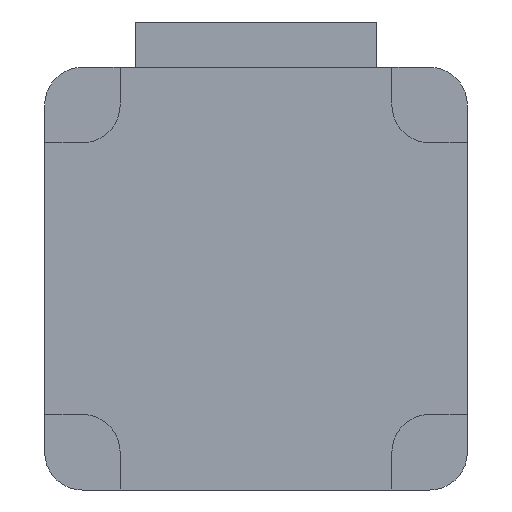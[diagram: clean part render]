
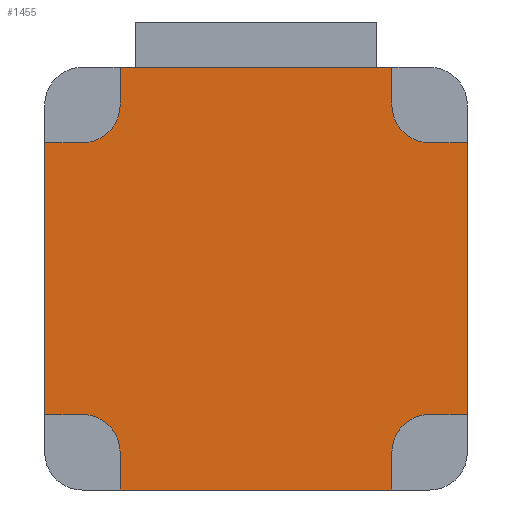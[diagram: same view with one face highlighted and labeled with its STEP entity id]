
A CAD part, front view. The second image highlights one B-rep face of the part: STEP entity #1455.
In plain terms, the highlighted planar face has unit normal (0, -1, 0).
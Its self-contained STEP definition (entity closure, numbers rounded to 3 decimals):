
#12 = VERTEX_POINT ( 'NONE', #916 ) ;
#17 = CARTESIAN_POINT ( 'NONE',  ( 2.5, -49., -5. ) ) ;
#32 = LINE ( 'NONE', #1348, #289 ) ;
#36 = DIRECTION ( 'NONE',  ( 0., 0., -1. ) ) ;
#41 = CARTESIAN_POINT ( 'NONE',  ( 0., -49., 0. ) ) ;
#46 = VERTEX_POINT ( 'NONE', #575 ) ;
#54 = CARTESIAN_POINT ( 'NONE',  ( 23., -49., -25.5 ) ) ;
#55 = AXIS2_PLACEMENT_3D ( 'NONE', #41, #103, #440 ) ;
#58 = CARTESIAN_POINT ( 'NONE',  ( 2.5, -49., -23. ) ) ;
#89 = VERTEX_POINT ( 'NONE', #188 ) ;
#103 = DIRECTION ( 'NONE',  ( 0., -1., 0. ) ) ;
#118 = CARTESIAN_POINT ( 'NONE',  ( 23., -49., -28. ) ) ;
#126 = PLANE ( 'NONE',  #55 ) ;
#156 = VECTOR ( 'NONE', #36, 1000. ) ;
#158 = CARTESIAN_POINT ( 'NONE',  ( 23., -49., -25.5 ) ) ;
#170 = VECTOR ( 'NONE', #449, 1000. ) ;
#188 = CARTESIAN_POINT ( 'NONE',  ( 5., -49., 0. ) ) ;
#204 = ORIENTED_EDGE ( 'NONE', *, *, #964, .F. ) ;
#216 = LINE ( 'NONE', #975, #940 ) ;
#221 = DIRECTION ( 'NONE',  ( 0., 0., 1. ) ) ;
#222 = DIRECTION ( 'NONE',  ( 0., 0., -1. ) ) ;
#223 = ORIENTED_EDGE ( 'NONE', *, *, #918, .F. ) ;
#264 = LINE ( 'NONE', #1504, #1612 ) ;
#272 = CARTESIAN_POINT ( 'NONE',  ( 28., -49., 0. ) ) ;
#273 = LINE ( 'NONE', #272, #570 ) ;
#286 = EDGE_CURVE ( 'NONE', #1029, #1281, #677, .T. ) ;
#289 = VECTOR ( 'NONE', #1108, 1000. ) ;
#302 = VECTOR ( 'NONE', #454, 1000. ) ;
#303 = DIRECTION ( 'NONE',  ( 0., -1., 0. ) ) ;
#308 = CARTESIAN_POINT ( 'NONE',  ( 25.5, -49., -2.5 ) ) ;
#323 = ORIENTED_EDGE ( 'NONE', *, *, #675, .F. ) ;
#335 = VERTEX_POINT ( 'NONE', #792 ) ;
#380 = VERTEX_POINT ( 'NONE', #650 ) ;
#388 = CIRCLE ( 'NONE', #924, 2.5 ) ;
#408 = ORIENTED_EDGE ( 'NONE', *, *, #1039, .F. ) ;
#422 = FACE_OUTER_BOUND ( 'NONE', #1411, .T. ) ;
#428 = LINE ( 'NONE', #523, #170 ) ;
#440 = DIRECTION ( 'NONE',  ( 0., 0., -1. ) ) ;
#444 = DIRECTION ( 'NONE',  ( 0., 0., 1. ) ) ;
#446 = ORIENTED_EDGE ( 'NONE', *, *, #1164, .F. ) ;
#449 = DIRECTION ( 'NONE',  ( 1., 0., 0. ) ) ;
#454 = DIRECTION ( 'NONE',  ( 1., 0., 0. ) ) ;
#460 = CARTESIAN_POINT ( 'NONE',  ( 25.5, -49., -5. ) ) ;
#491 = CIRCLE ( 'NONE', #648, 2.5 ) ;
#512 = VECTOR ( 'NONE', #444, 1000. ) ;
#517 = VECTOR ( 'NONE', #977, 1000. ) ;
#523 = CARTESIAN_POINT ( 'NONE',  ( 0., -49., -5. ) ) ;
#527 = EDGE_CURVE ( 'NONE', #785, #669, #273, .T. ) ;
#536 = ORIENTED_EDGE ( 'NONE', *, *, #286, .F. ) ;
#552 = CIRCLE ( 'NONE', #1072, 2.5 ) ;
#554 = VERTEX_POINT ( 'NONE', #158 ) ;
#558 = CARTESIAN_POINT ( 'NONE',  ( 5., -49., -28. ) ) ;
#562 = EDGE_CURVE ( 'NONE', #554, #1029, #843, .T. ) ;
#570 = VECTOR ( 'NONE', #222, 1000. ) ;
#575 = CARTESIAN_POINT ( 'NONE',  ( 0., -49., -5. ) ) ;
#582 = VERTEX_POINT ( 'NONE', #17 ) ;
#612 = DIRECTION ( 'NONE',  ( 0., 0., 1. ) ) ;
#613 = LINE ( 'NONE', #741, #1075 ) ;
#615 = ORIENTED_EDGE ( 'NONE', *, *, #527, .F. ) ;
#619 = DIRECTION ( 'NONE',  ( 0., -1., 0. ) ) ;
#623 = CARTESIAN_POINT ( 'NONE',  ( 25.5, -49., -25.5 ) ) ;
#631 = VECTOR ( 'NONE', #1120, 1000. ) ;
#632 = ORIENTED_EDGE ( 'NONE', *, *, #1349, .F. ) ;
#646 = ORIENTED_EDGE ( 'NONE', *, *, #562, .F. ) ;
#648 = AXIS2_PLACEMENT_3D ( 'NONE', #858, #744, #727 ) ;
#650 = CARTESIAN_POINT ( 'NONE',  ( 23., -49., 0. ) ) ;
#653 = DIRECTION ( 'NONE',  ( -1., 0., 0. ) ) ;
#669 = VERTEX_POINT ( 'NONE', #1362 ) ;
#671 = DIRECTION ( 'NONE',  ( 1., 0., 0. ) ) ;
#675 = EDGE_CURVE ( 'NONE', #1257, #46, #32, .T. ) ;
#677 = LINE ( 'NONE', #969, #631 ) ;
#708 = CARTESIAN_POINT ( 'NONE',  ( 28., -49., -23. ) ) ;
#727 = DIRECTION ( 'NONE',  ( 0., 0., 1. ) ) ;
#729 = ORIENTED_EDGE ( 'NONE', *, *, #1045, .F. ) ;
#741 = CARTESIAN_POINT ( 'NONE',  ( 2.5, -49., -23. ) ) ;
#744 = DIRECTION ( 'NONE',  ( 0., -1., 0. ) ) ;
#750 = ORIENTED_EDGE ( 'NONE', *, *, #1067, .F. ) ;
#785 = VERTEX_POINT ( 'NONE', #1589 ) ;
#792 = CARTESIAN_POINT ( 'NONE',  ( 5., -49., -25.5 ) ) ;
#825 = ORIENTED_EDGE ( 'NONE', *, *, #1091, .F. ) ;
#832 = DIRECTION ( 'NONE',  ( -1., 0., 0. ) ) ;
#843 = LINE ( 'NONE', #54, #156 ) ;
#850 = CARTESIAN_POINT ( 'NONE',  ( 2.5, -49., -2.5 ) ) ;
#854 = AXIS2_PLACEMENT_3D ( 'NONE', #308, #303, #221 ) ;
#858 = CARTESIAN_POINT ( 'NONE',  ( 2.5, -49., -25.5 ) ) ;
#865 = LINE ( 'NONE', #995, #517 ) ;
#868 = DIRECTION ( 'NONE',  ( 0., 0., 1. ) ) ;
#874 = DIRECTION ( 'NONE',  ( 0., -1., 0. ) ) ;
#890 = VERTEX_POINT ( 'NONE', #988 ) ;
#892 = EDGE_CURVE ( 'NONE', #380, #12, #865, .T. ) ;
#905 = EDGE_CURVE ( 'NONE', #890, #89, #216, .T. ) ;
#916 = CARTESIAN_POINT ( 'NONE',  ( 23., -49., -2.5 ) ) ;
#917 = CIRCLE ( 'NONE', #854, 2.5 ) ;
#918 = EDGE_CURVE ( 'NONE', #582, #890, #552, .T. ) ;
#924 = AXIS2_PLACEMENT_3D ( 'NONE', #623, #619, #612 ) ;
#940 = VECTOR ( 'NONE', #1238, 1000. ) ;
#964 = EDGE_CURVE ( 'NONE', #46, #582, #428, .T. ) ;
#969 = CARTESIAN_POINT ( 'NONE',  ( 0., -49., -28. ) ) ;
#975 = CARTESIAN_POINT ( 'NONE',  ( 5., -49., -2.5 ) ) ;
#977 = DIRECTION ( 'NONE',  ( 0., 0., -1. ) ) ;
#985 = ORIENTED_EDGE ( 'NONE', *, *, #1056, .F. ) ;
#988 = CARTESIAN_POINT ( 'NONE',  ( 5., -49., -2.5 ) ) ;
#995 = CARTESIAN_POINT ( 'NONE',  ( 23., -49., 0. ) ) ;
#1029 = VERTEX_POINT ( 'NONE', #118 ) ;
#1034 = VECTOR ( 'NONE', #653, 1000. ) ;
#1039 = EDGE_CURVE ( 'NONE', #1469, #1257, #613, .T. ) ;
#1045 = EDGE_CURVE ( 'NONE', #1237, #554, #388, .T. ) ;
#1056 = EDGE_CURVE ( 'NONE', #669, #1237, #1372, .T. ) ;
#1067 = EDGE_CURVE ( 'NONE', #1275, #785, #1616, .T. ) ;
#1072 = AXIS2_PLACEMENT_3D ( 'NONE', #850, #874, #868 ) ;
#1075 = VECTOR ( 'NONE', #832, 1000. ) ;
#1091 = EDGE_CURVE ( 'NONE', #12, #1275, #917, .T. ) ;
#1108 = DIRECTION ( 'NONE',  ( 0., 0., 1. ) ) ;
#1120 = DIRECTION ( 'NONE',  ( -1., 0., 0. ) ) ;
#1136 = CARTESIAN_POINT ( 'NONE',  ( 5., -49., -28. ) ) ;
#1164 = EDGE_CURVE ( 'NONE', #335, #1469, #491, .T. ) ;
#1236 = LINE ( 'NONE', #558, #512 ) ;
#1237 = VERTEX_POINT ( 'NONE', #1357 ) ;
#1238 = DIRECTION ( 'NONE',  ( 0., 0., 1. ) ) ;
#1257 = VERTEX_POINT ( 'NONE', #1267 ) ;
#1267 = CARTESIAN_POINT ( 'NONE',  ( 0., -49., -23. ) ) ;
#1272 = CARTESIAN_POINT ( 'NONE',  ( 25.5, -49., -5. ) ) ;
#1275 = VERTEX_POINT ( 'NONE', #1272 ) ;
#1281 = VERTEX_POINT ( 'NONE', #1136 ) ;
#1327 = ORIENTED_EDGE ( 'NONE', *, *, #892, .F. ) ;
#1348 = CARTESIAN_POINT ( 'NONE',  ( 0., -49., 0. ) ) ;
#1349 = EDGE_CURVE ( 'NONE', #1281, #335, #1236, .T. ) ;
#1357 = CARTESIAN_POINT ( 'NONE',  ( 25.5, -49., -23. ) ) ;
#1362 = CARTESIAN_POINT ( 'NONE',  ( 28., -49., -23. ) ) ;
#1367 = ORIENTED_EDGE ( 'NONE', *, *, #1566, .F. ) ;
#1372 = LINE ( 'NONE', #708, #1034 ) ;
#1411 = EDGE_LOOP ( 'NONE', ( #1327, #1367, #1611, #223, #204, #323, #408, #446, #632, #536, #646, #729, #985, #615, #750, #825 ) ) ;
#1455 = ADVANCED_FACE ( 'NONE', ( #422 ), #126, .T. ) ;
#1469 = VERTEX_POINT ( 'NONE', #58 ) ;
#1504 = CARTESIAN_POINT ( 'NONE',  ( 0., -49., 0. ) ) ;
#1566 = EDGE_CURVE ( 'NONE', #89, #380, #264, .T. ) ;
#1589 = CARTESIAN_POINT ( 'NONE',  ( 28., -49., -5. ) ) ;
#1611 = ORIENTED_EDGE ( 'NONE', *, *, #905, .F. ) ;
#1612 = VECTOR ( 'NONE', #671, 1000. ) ;
#1616 = LINE ( 'NONE', #460, #302 ) ;
